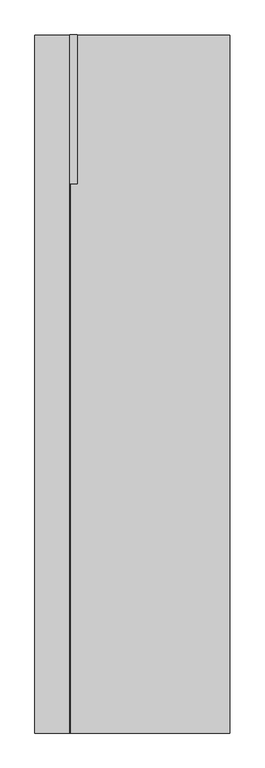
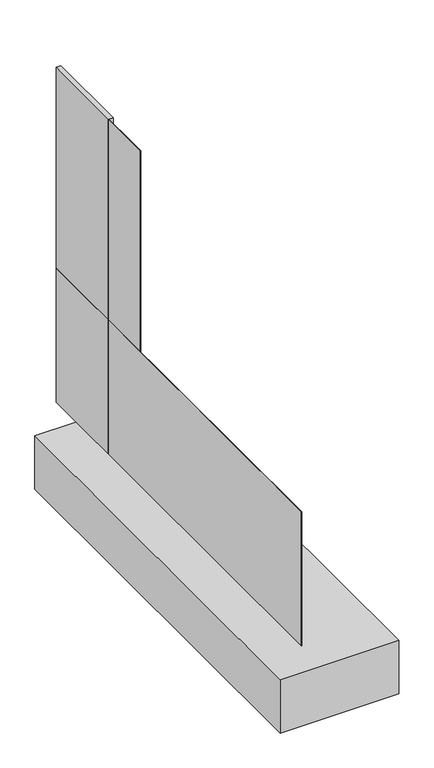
"""IFC4 building model written with IfcOpenShell, lengths in millimetres: proxy geometry, IMPER:IMPER:433934 : IMPER:IMPER:433934."""

from ifc_helpers import new_model, si_unit, frame, origin, place, context, project, spatial, polyline, outline, extrude, source, transform, mapped, element, save


def generic_models_ae3b01ae(model_context):
    return source(origin(), model_context, "Body", "SweptSolid", [
        extrude(outline(polyline([(-217.0499776, 874.3260192), (-216.0386675, 874.3260192), (-216.0386675, -2125.6739808), (-217.0499776, -2125.6739808), (-217.0499776, 874.3260192)])), frame((0.0, 0.0, -2.523798), z_axis=(0.0, 0.0, 1.0), x_axis=(1.0, 0.0, 0.0)), (0.0, 0.0, 1.0), 1000.0),
        extrude(outline(polyline([(-217.0499776, 874.3260192), (-185.0386675, 874.3260192), (-185.0386675, 234.3260192), (-217.0499776, 234.3260192), (-217.0499776, 874.3260192)])), frame((0.0, 0.0, -2.523798), z_axis=(0.0, 0.0, 1.0), x_axis=(1.0, 0.0, 0.0)), (0.0, 0.0, 1.0), 2500.0),
        extrude(outline(polyline([(-216.0386675, 874.3260192), (-215.0386675, 874.3260192), (-215.0386675, -154.1098976), (-216.0386675, -154.1098976), (-216.0386675, 874.3260192)])), frame((0.0, 0.0, -2.523798), z_axis=(0.0, 0.0, 1.0), x_axis=(1.0, 0.0, 0.0)), (0.0, 0.0, 1.0), 2500.0),
        extrude(outline(polyline([(469.984728, 874.3260192), (469.984728, -2125.6739808), (-367.0499776, -2125.6739808), (-367.0499776, 874.3260192), (469.984728, 874.3260192)])), frame((0.0, 0.0, -602.523798), z_axis=(0.0, 0.0, 1.0), x_axis=(1.0, 0.0, 0.0)), (0.0, 0.0, 1.0), 400.0),
    ])


if __name__ == "__main__":
    model = new_model("IFC4")
    model_context = context("Model", 3, world=origin())
    ifc_project = project(units=[si_unit("LENGTHUNIT", "METRE", prefix="MILLI")], contexts=[model_context])
    site = spatial("IfcSite", under=ifc_project)
    building = spatial("IfcBuilding", under=site)
    placement = place(None, origin())
    generic_models_shape = generic_models_ae3b01ae(model_context)
    element("IfcBuildingElementProxy", 1, Name="IMPER:IMPER:433934 : IMPER:IMPER:433934", ObjectType="IMPER:IMPER:433934 : IMPER:IMPER:433934", at=placement, inside=building, context=model_context, shape_type="MappedRepresentation", body=[
        mapped(generic_models_shape, transform((0.0, 0.0, 0.0), x_axis=(1.0, 0.0, 0.0), y_axis=(0.0, 1.0, 0.0), z_axis=(0.0, 0.0, 1.0))),
    ])
    save(model, "model.ifc")
